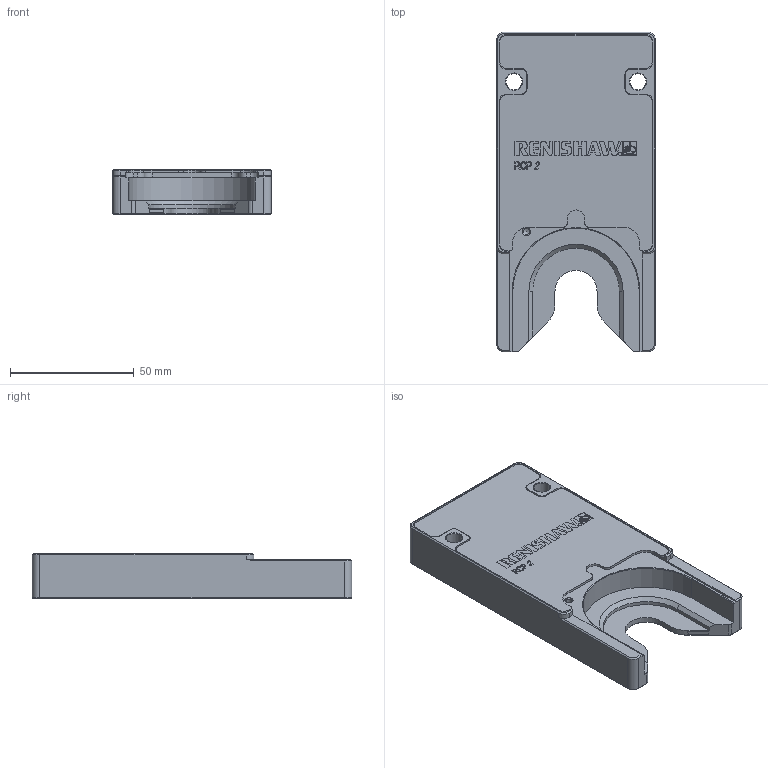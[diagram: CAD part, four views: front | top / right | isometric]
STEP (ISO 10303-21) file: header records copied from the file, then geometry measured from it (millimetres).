
FILE_DESCRIPTION(/* description */ (''),/* implementation_level */ '2;1');
FILE_NAME(/* name */ 'LA-3061-2310#-A.stp',/* time_stamp */ '2012-09-06T15:36:02+01:00',/* author */ (''),/* organization */ (''),/* preprocessor_version */ 'ST-DEVELOPER v11',/* originating_system */ 'SIEMENS PLM Software NX 7.5',/* authorisation */ '');
FILE_SCHEMA (('AUTOMOTIVE_DESIGN { 1 0 10303 214 1 1 1 1 }'));
Length unit declared in the file: millimetre
Products named in the file (1): rt134014x51y
Bounding box: 64 x 129 x 18.1 mm (x, y, z)
Volume: 102036 mm3; surface area: 31644.8 mm2
Topology: 1 solids, 1 shells, 200 faces, 611 edges, 447 vertices
Faces by surface type: plane 120, cylinder 55, cone 25
Full cylindrical faces by diameter (mm): 2.54 x1, 6.5 x2, 11 x2
Entity records: 8698 total; most frequent: CARTESIAN_POINT 1817, ORIENTED_EDGE 1190, DIRECTION 1042, EDGE_CURVE 595, VERTEX_POINT 443, AXIS2_PLACEMENT_3D 358, LINE 326, VECTOR 326
